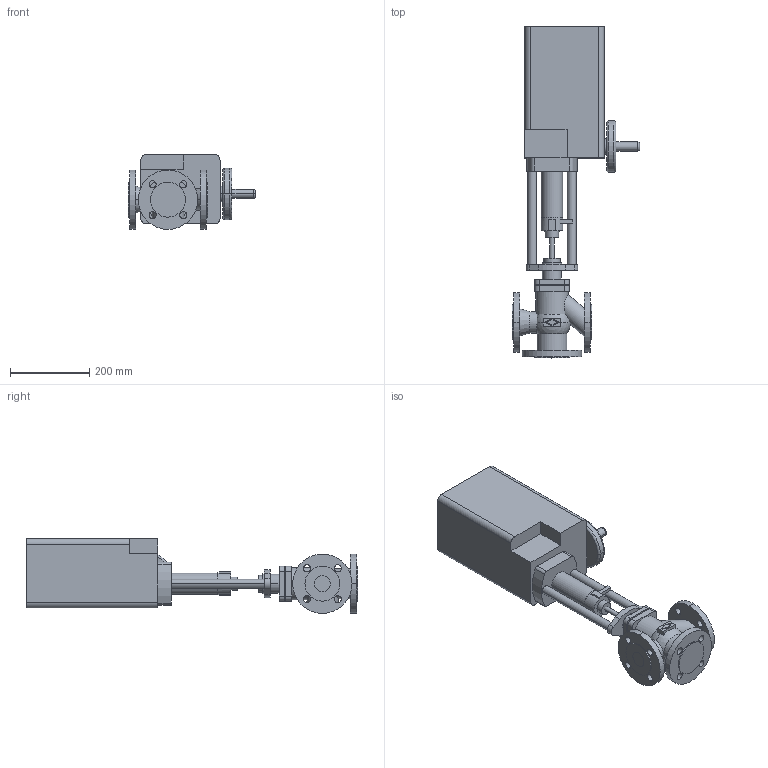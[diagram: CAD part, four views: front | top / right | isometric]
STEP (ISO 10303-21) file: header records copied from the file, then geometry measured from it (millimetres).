
FILE_DESCRIPTION(('OneSpaceDesigner STEP Export'),'2;1');
FILE_NAME('c000002419.stp','2006-09-19T12:09:31',(''),(''),'OneSpace Designer STEP processor for AP214 (Solid Model)','OneSpace Designer 13.20A 18-Aug-2005 (C) CoCreate Software GmbH','');
FILE_SCHEMA(('AUTOMOTIVE_DESIGN { 1 0 10303 214 1 1 1 1 }'));
Length unit declared in the file: millimetre
Products named in the file (2): 1; 2
Bounding box: 321.6 x 839 x 189 mm (x, y, z)
Volume: 14982093 mm3; surface area: 657611.8 mm2
Topology: 2 solids, 2 shells, 198 faces, 486 edges, 321 vertices
Faces by surface type: cylinder 98, plane 86, sphere 6, torus 6, cone 2
Entity records: 5766 total; most frequent: CARTESIAN_POINT 1339, ORIENTED_EDGE 972, DIRECTION 825, EDGE_CURVE 486, VERTEX_POINT 321, AXIS2_PLACEMENT_3D 295, EDGE_LOOP 251, VECTOR 235
